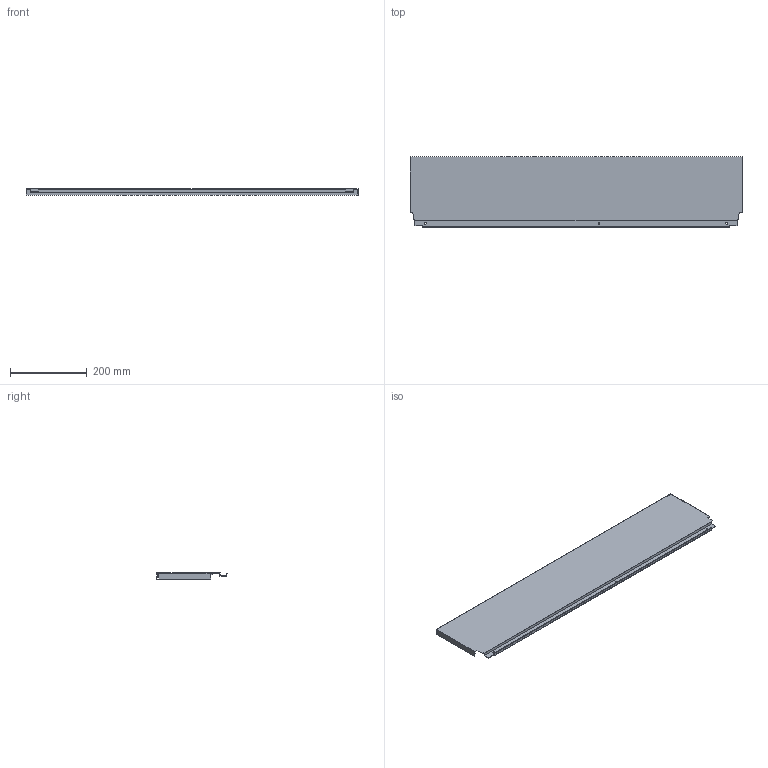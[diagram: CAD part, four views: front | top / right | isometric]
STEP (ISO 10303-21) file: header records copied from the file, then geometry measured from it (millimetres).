
FILE_DESCRIPTION (( 'STEP AP214' ), '1' );
FILE_NAME ('_DWD_XP Stahlrückwand_H182_KAB950_S17.step', '2010-07-08T12:57:49', ( 'grass' ), ( '' ), 'SwSTEP 2.0', 'SolidWorks 2010', '' );
FILE_SCHEMA (( 'AUTOMOTIVE_DESIGN' ));
Length unit declared in the file: millimetre
Products named in the file (1): _DWD_XP Stahlrückwand_H182_KAB950_S17
Bounding box: 865 x 182.49 x 16 mm (x, y, z)
Volume: 162193.3 mm3; surface area: 374943.3 mm2
Topology: 1 solids, 1 shells, 46 faces, 132 edges, 88 vertices
Faces by surface type: plane 40, cylinder 6
Entity records: 1534 total; most frequent: CARTESIAN_POINT 267, ORIENTED_EDGE 264, DIRECTION 238, EDGE_CURVE 132, LINE 120, VECTOR 120, VERTEX_POINT 88, AXIS2_PLACEMENT_3D 59
